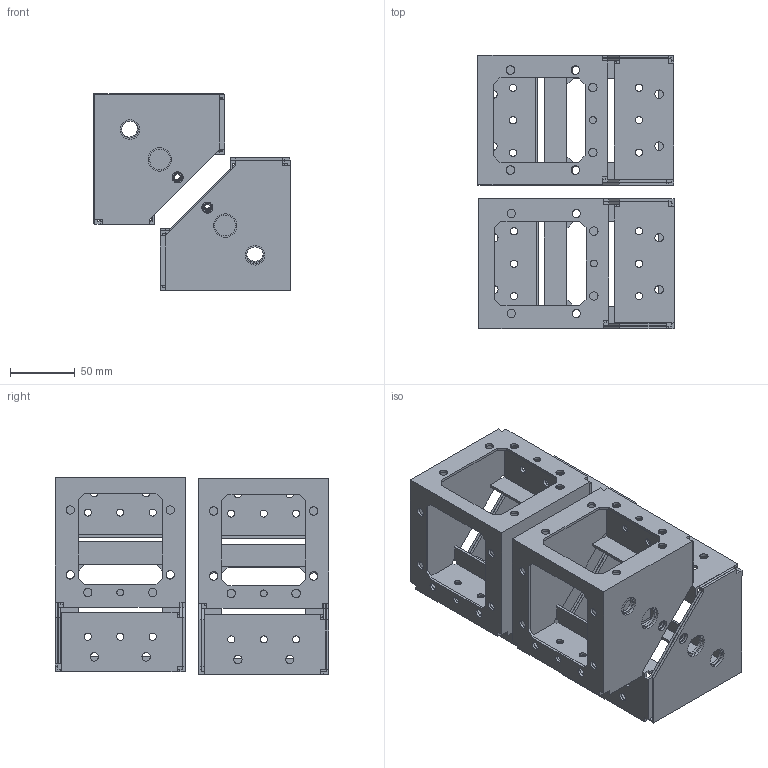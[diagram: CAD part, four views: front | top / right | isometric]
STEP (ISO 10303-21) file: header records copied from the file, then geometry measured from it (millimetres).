
FILE_DESCRIPTION (( 'STEP AP214' ), '1' );
FILE_NAME ('FO-00D-KC-010-7035 Êîìïëåêò óãëîâûõ ýëåìåíòîâ öîêîëÿ (4 øò.êîìïë.).STEP', '2025-07-30T09:24:54', ( '' ), ( '' ), 'SwSTEP 2.0', 'SolidWorks 2023', '' );
FILE_SCHEMA (( 'AUTOMOTIVE_DESIGN' ));
Length unit declared in the file: millimetre
Products named in the file (2): Угловой элемент цоколя; FO-00D-KC-010-7035 Комплект угловых элементов цоколя (4 шт.компл.)
Assembly tree (4 placements, depth 2):
  FO-00D-KC-010-7035 Комплект угловых элементов цоколя (4 шт.компл.)
    Угловой элемент цоколя  x4
Bounding box: 151.07 x 210.54 x 151.66 mm (x, y, z)
Volume: 389681.6 mm3; surface area: 411256.1 mm2
Topology: 4 solids, 4 shells, 604 faces, 1788 edges, 1192 vertices
Faces by surface type: plane 332, cylinder 272
Entity records: 5300 total; most frequent: CARTESIAN_POINT 903, DIRECTION 899, ORIENTED_EDGE 894, EDGE_CURVE 447, VECTOR 311, LINE 311, VERTEX_POINT 298, AXIS2_PLACEMENT_3D 294
